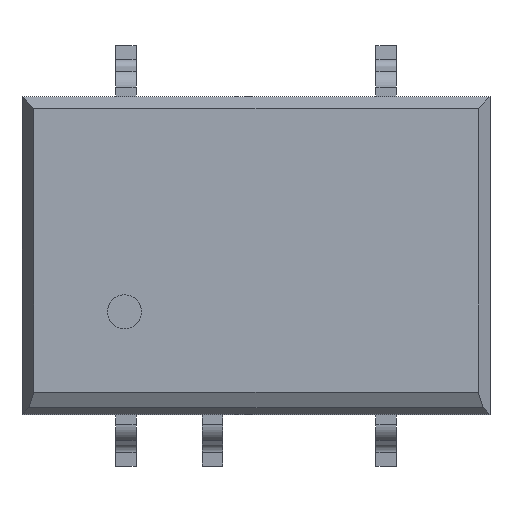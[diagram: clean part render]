
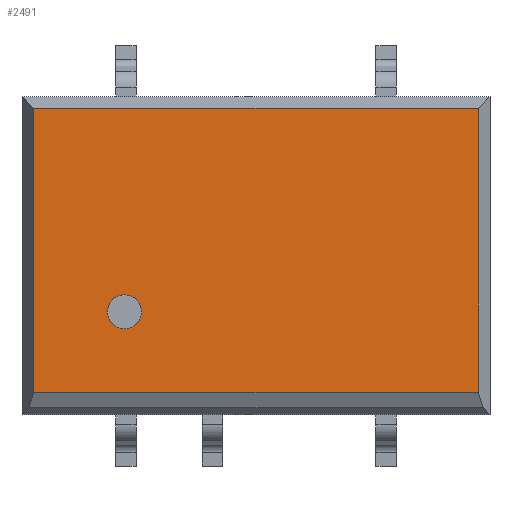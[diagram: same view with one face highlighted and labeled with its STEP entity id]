
A CAD part, top view. The second image highlights one B-rep face of the part: STEP entity #2491.
In plain terms, the highlighted planar face has unit normal (0, 0, 1).
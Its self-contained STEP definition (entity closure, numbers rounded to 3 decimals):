
#36=FACE_BOUND('',#239,.T.);
#55=CIRCLE('',#2628,0.5);
#104=FACE_OUTER_BOUND('',#238,.T.);
#238=EDGE_LOOP('',(#1574,#1575,#1576,#1577));
#239=EDGE_LOOP('',(#1578));
#389=LINE('',#3466,#688);
#393=LINE('',#3475,#692);
#399=LINE('',#3487,#698);
#402=LINE('',#3492,#701);
#688=VECTOR('',#2807,13.007);
#692=VECTOR('',#2815,8.307);
#698=VECTOR('',#2825,13.007);
#701=VECTOR('',#2830,8.307);
#984=VERTEX_POINT('',#3459);
#987=VERTEX_POINT('',#3464);
#990=VERTEX_POINT('',#3474);
#994=VERTEX_POINT('',#3486);
#996=VERTEX_POINT('',#3493);
#1213=EDGE_CURVE('',#987,#984,#389,.T.);
#1217=EDGE_CURVE('',#984,#990,#393,.T.);
#1223=EDGE_CURVE('',#990,#994,#399,.T.);
#1226=EDGE_CURVE('',#994,#987,#402,.T.);
#1227=EDGE_CURVE('',#996,#996,#55,.T.);
#1574=ORIENTED_EDGE('',*,*,#1213,.F.);
#1575=ORIENTED_EDGE('',*,*,#1226,.F.);
#1576=ORIENTED_EDGE('',*,*,#1223,.F.);
#1577=ORIENTED_EDGE('',*,*,#1217,.F.);
#1578=ORIENTED_EDGE('',*,*,#1227,.T.);
#2244=PLANE('',#2627);
#2491=ADVANCED_FACE('',(#104,#36),#2244,.F.);
#2627=AXIS2_PLACEMENT_3D('',#3491,#2828,#2829);
#2628=AXIS2_PLACEMENT_3D('',#3494,#2831,#2832);
#2807=DIRECTION('',(-1.,0.,0.));
#2815=DIRECTION('',(0.,1.,0.));
#2825=DIRECTION('',(1.,0.,0.));
#2828=DIRECTION('center_axis',(0.,0.,
-1.));
#2829=DIRECTION('ref_axis',(-1.,0.,0.));
#2830=DIRECTION('',(0.,-1.,0.));
#2831=DIRECTION('center_axis',(0.,0.,
-1.));
#2832=DIRECTION('ref_axis',(1.,0.,0.));
#3459=CARTESIAN_POINT('',(-6.504,-4.004,8.6));
#3464=CARTESIAN_POINT('',(6.504,-4.004,8.6));
#3466=CARTESIAN_POINT('',(-1.713,-4.004,8.6));
#3474=CARTESIAN_POINT('',(-6.504,4.304,8.6));
#3475=CARTESIAN_POINT('',(-6.504,2.325,8.6));
#3486=CARTESIAN_POINT('',(6.504,4.304,8.6));
#3487=CARTESIAN_POINT('',(3.425,4.304,8.6));
#3491=CARTESIAN_POINT('Origin',(0.,0.,
8.6));
#3492=CARTESIAN_POINT('',(6.504,-2.325,8.6));
#3493=CARTESIAN_POINT('',(-3.35,-1.65,8.6));
#3494=CARTESIAN_POINT('Origin',(-3.85,-1.65,8.6));
